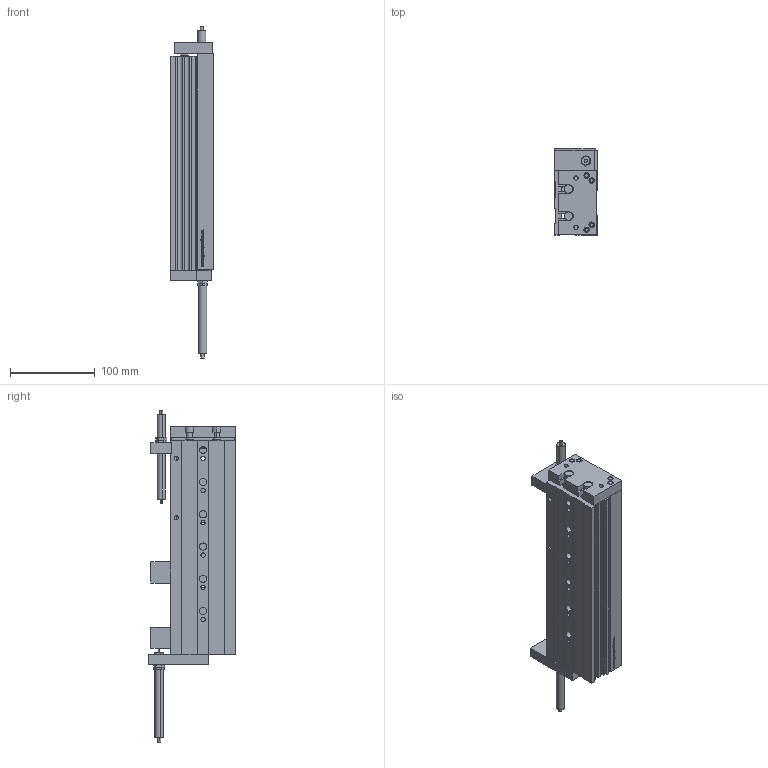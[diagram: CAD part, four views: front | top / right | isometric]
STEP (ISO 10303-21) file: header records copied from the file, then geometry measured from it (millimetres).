
FILE_DESCRIPTION (( 'STEP AP203' ), '1' );
FILE_NAME ('GDX 20-125.STEP', '2013-02-27T15:50:26', ( 'Conseil Régional Haute-Normandie' ), ( 'Conseil Régional Haute-Normandie' ), 'SwSTEP 2.0', 'SolidWorks 2010', '' );
FILE_SCHEMA (( 'CONFIG_CONTROL_DESIGN' ));
Length unit declared in the file: millimetre
Products named in the file (14): Pièce13 GDX 20-125_Default; Pièce11 GDX 20-125_Default; Pièce14 GDX 20-10_Default; Pièce16 GDX 20-10_Default; GDX 20-125; Pièce 12 GDX 20-125_Default; Pièce 10 GDX 20-125_Default; Pièce1 GDX 20-10_Default; Pièce2 GDX 20-10_Default; Pièce3 GDX 20-10_Default; Pièce7 GDX 20-10_Default; Pièce15 GDX 20-10_Default; Pièce4 GDX 20-100_Default; Pièce9 GDX 20-100_Default
Assembly tree (32 placements, depth 2):
  GDX 20-125
    Pièce14 GDX 20-10_Default  x4
    Pièce15 GDX 20-10_Default  x10
    Pièce13 GDX 20-125_Default  x2
    Pièce 10 GDX 20-125_Default
    Pièce16 GDX 20-10_Default  x4
    Pièce9 GDX 20-100_Default  x2
    Pièce3 GDX 20-10_Default  x2
    Pièce4 GDX 20-100_Default  x2
    Pièce1 GDX 20-10_Default
    Pièce11 GDX 20-125_Default
    Pièce7 GDX 20-10_Default
    Pièce 12 GDX 20-125_Default
    Pièce2 GDX 20-10_Default
Bounding box: 50 x 102 x 391.28 mm (x, y, z)
Volume: 834063.2 mm3; surface area: 248931.8 mm2
Topology: 32 solids, 32 shells, 844 faces, 2134 edges, 1388 vertices
Faces by surface type: plane 409, cylinder 262, bspline 133, cone 40
Entity records: 33032 total; most frequent: CARTESIAN_POINT 14557, ORIENTED_EDGE 3540, DIRECTION 3042, EDGE_CURVE 1770, VERTEX_POINT 1172, VECTOR 1132, LINE 1132, AXIS2_PLACEMENT_3D 955
